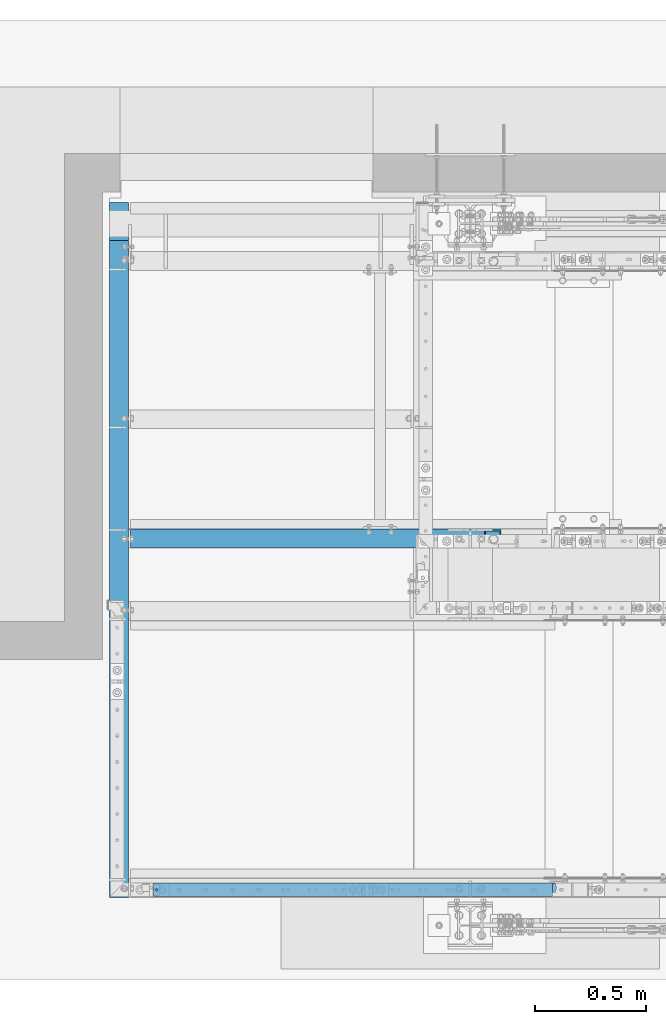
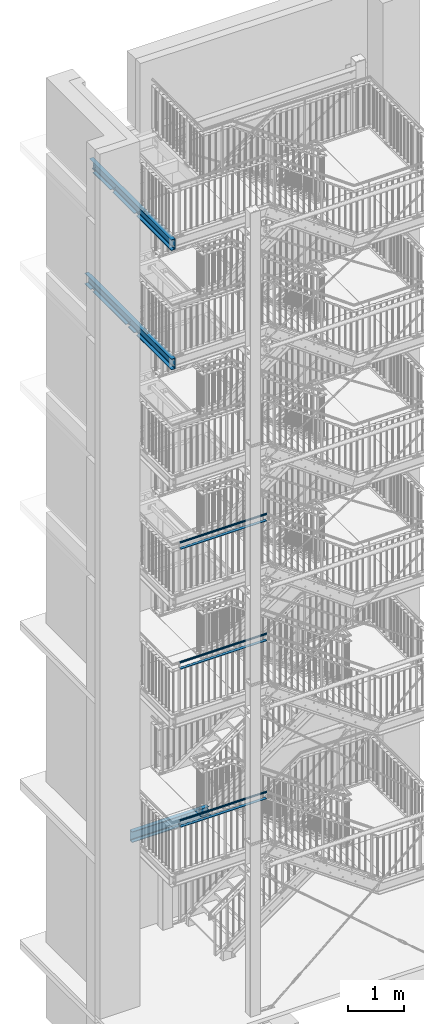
# One storey, part 113 of 825: 9 beams, 37 openings.
"""IFC2X3 building model written with IfcOpenShell, lengths in millimetres."""

import ifcopenshell
import ifcopenshell.guid

model = None  # the IFC model being written
_history = None  # IfcOwnerHistory: only IFC2X3 demands one
_inside = {}  # id of a spatial element -> (the spatial element, [elements in it])
_under = {}  # id of a project, library or spatial element -> (it, [spatial elements below it])
_declared = {}  # id of a project -> (the project, [libraries it declares])
_typed = {}  # id of a type object -> (the type object, [elements of that type])
_made_of = {}  # id of a material, layer set ... -> (it, [elements and type objects made of it])


def new_model(schema):
    """Start an empty IFC model of exactly this schema.

    Asked for "IFC4X3", IfcOpenShell would pick the latest addendum, in which some entities
    have other attributes; the version numbers below select the first issue.
    IFC2X3 requires an IfcOwnerHistory on every rooted entity: one is made here for all.
    """
    global model, _history
    if schema == "IFC4X3":
        model = ifcopenshell.file(schema_version=(4, 3, 0, 0))
    else:
        model = ifcopenshell.file(schema=schema)
    _inside.clear()
    _under.clear()
    _declared.clear()
    _typed.clear()
    _made_of.clear()
    _history = None
    if model.schema == "IFC2X3":
        org = make("IfcOrganization", Name="unknown")
        user = make(
            "IfcPersonAndOrganization",
            ThePerson=make("IfcPerson", FamilyName="unknown"),
            TheOrganization=org,
        )
        app = make(
            "IfcApplication",
            ApplicationDeveloper=org,
            Version="unknown",
            ApplicationFullName="unknown",
            ApplicationIdentifier="unknown",
        )
        _history = make(
            "IfcOwnerHistory",
            OwningUser=user,
            OwningApplication=app,
            ChangeAction="ADDED",
            CreationDate=0,
        )
    return model


def make(cls, **values):
    """One entity of the class cls with the attributes given. An attribute that is None is left unset."""
    return model.create_entity(
        cls, **{name: value for name, value in values.items() if value is not None}
    )


def entity(cls, *values):
    """Any entity or typed value of the class cls, its attributes in the order of the schema. None: left unset."""
    e = model.create_entity(cls)
    for i, value in enumerate(values):
        if value is not None:
            e[i] = value
    return e


def rooted(cls, **values):
    """An entity with a GlobalId (a new one), such as an element, a storey or a relation."""
    return make(cls, GlobalId=ifcopenshell.guid.new(), OwnerHistory=_history, **values)


def si_unit(unit_type, name, prefix=None):
    """IfcSIUnit, for example si_unit("LENGTHUNIT", "METRE", prefix="MILLI")."""
    return make("IfcSIUnit", UnitType=unit_type, Prefix=prefix, Name=name)


def converted_unit(unit_type, name, factor, base, dimensions=None, offset=None):
    """IfcConversionBasedUnit, such as the inch: factor (a typed value) times the base unit."""
    return make(
        "IfcConversionBasedUnit"
        if offset is None
        else "IfcConversionBasedUnitWithOffset",
        ConversionOffset=offset,
        Dimensions=None
        if dimensions is None
        else entity("IfcDimensionalExponents", *dimensions),
        UnitType=unit_type,
        Name=name,
        ConversionFactor=make(
            "IfcMeasureWithUnit", ValueComponent=factor, UnitComponent=base
        ),
    )


def assignment(units):
    """IfcUnitAssignment: the units of a project."""
    return None if units is None else make("IfcUnitAssignment", Units=units)


def point(xyz):
    """IfcCartesianPoint."""
    return None if xyz is None else make("IfcCartesianPoint", Coordinates=xyz)


def direction(xyz):
    """IfcDirection."""
    return None if xyz is None else make("IfcDirection", DirectionRatios=xyz)


def frame(location, z_axis=None, x_axis=None):
    """IfcAxis2Placement3D, a coordinate frame: its origin and axes. An axis left out is left unset."""
    return make(
        "IfcAxis2Placement3D",
        Location=point(location),
        Axis=direction(z_axis),
        RefDirection=direction(x_axis),
    )


def frame_2d(location, x_axis=None):
    """IfcAxis2Placement2D, a coordinate frame in the plane: its origin and x axis."""
    return make(
        "IfcAxis2Placement2D", Location=point(location), RefDirection=direction(x_axis)
    )


def origin():
    """The frame at (0, 0, 0) with its axes left unset."""
    return frame((0.0, 0.0, 0.0))


def origin_with_axes():
    """The frame at (0, 0, 0) with the z axis (0, 0, 1) and the x axis (1, 0, 0) written out."""
    return frame((0.0, 0.0, 0.0), z_axis=(0.0, 0.0, 1.0), x_axis=(1.0, 0.0, 0.0))


def origin_2d():
    """The frame at (0, 0) in the plane with its x axis left unset."""
    return frame_2d((0.0, 0.0))


def origin_2d_with_axis():
    """The frame at (0, 0) in the plane with the x axis (1, 0) written out."""
    return frame_2d((0.0, 0.0), x_axis=(1.0, 0.0))


def place(relative_to, where):
    """IfcLocalPlacement: puts the frame where relative to a parent placement (None: the world)."""
    return make(
        "IfcLocalPlacement", PlacementRelTo=relative_to, RelativePlacement=where
    )


def context(
    kind, dimensions, precision=None, world=None, true_north=None, identifier=None
):
    """IfcGeometricRepresentationContext, for example the 3D "Model" context."""
    return make(
        "IfcGeometricRepresentationContext",
        ContextIdentifier=identifier,
        ContextType=kind,
        CoordinateSpaceDimension=dimensions,
        Precision=precision,
        WorldCoordinateSystem=world,
        TrueNorth=true_north,
    )


def project(units=None, contexts=None):
    """IfcProject with its units and contexts."""
    return rooted(
        "IfcProject",
        Name="project",
        RepresentationContexts=contexts,
        UnitsInContext=assignment(units),
    )


def spatial(cls, under=None, at=None, **own):
    """A site, building, storey or space (cls), placed at a placement, below another one or the project."""
    s = rooted(cls, ObjectPlacement=at, **own)
    if under is not None:
        _under.setdefault(under.id(), (under, []))[1].append(s)
    return s


def circle_curve(where, radius):
    """IfcCircle in the frame where."""
    return make("IfcCircle", Position=where, Radius=radius)


def line_curve(start, along, magnitude):
    """IfcLine from a point along a vector."""
    return make(
        "IfcLine",
        Pnt=point(start),
        Dir=make("IfcVector", Orientation=direction(along), Magnitude=magnitude),
    )


def trimmed(basis, trim1, trim2, sense, master):
    """IfcTrimmedCurve: the piece of a basis curve between two trims."""
    return make(
        "IfcTrimmedCurve",
        BasisCurve=basis,
        Trim1=trim1,
        Trim2=trim2,
        SenseAgreement=sense,
        MasterRepresentation=master,
    )


def segment(curve, same_sense, transition):
    """IfcCompositeCurveSegment."""
    return make(
        "IfcCompositeCurveSegment",
        Transition=transition,
        SameSense=same_sense,
        ParentCurve=curve,
    )


def composite_curve(segments, self_intersect=None):
    """IfcCompositeCurve: segments joined end to end."""
    return make("IfcCompositeCurve", Segments=segments, SelfIntersect=self_intersect)


def profile(cls, at=None, kind="AREA", **sizes):
    """A parametric profile (cls). Its sizes go by their IFC names, for example OverallWidth=200.0."""
    return make(cls, ProfileType=kind, Position=at, **sizes)


def rectangle(**sizes):
    """IfcRectangleProfileDef."""
    return profile("IfcRectangleProfileDef", **sizes)


def circle(**sizes):
    """IfcCircleProfileDef."""
    return profile("IfcCircleProfileDef", **sizes)


def hollow_circle(**sizes):
    """IfcCircleHollowProfileDef."""
    return profile("IfcCircleHollowProfileDef", **sizes)


def u_section(**sizes):
    """IfcUShapeProfileDef."""
    return profile("IfcUShapeProfileDef", **sizes)


def outline(outer, holes=None, kind="AREA"):
    """IfcArbitraryClosedProfileDef: a profile drawn as a closed curve; with holes, ...WithVoids."""
    if holes is None:
        return make("IfcArbitraryClosedProfileDef", ProfileType=kind, OuterCurve=outer)
    return make(
        "IfcArbitraryProfileDefWithVoids",
        ProfileType=kind,
        OuterCurve=outer,
        InnerCurves=holes,
    )


def extrude(swept, where, along, depth):
    """IfcExtrudedAreaSolid: the profile swept, set in the frame where, extruded along a direction by depth."""
    return make(
        "IfcExtrudedAreaSolid",
        SweptArea=swept,
        Position=where,
        ExtrudedDirection=direction(along),
        Depth=depth,
    )


def clip(a, b, op="DIFFERENCE"):
    """IfcBooleanClippingResult: the solid a cut by the half space b."""
    return make(
        "IfcBooleanClippingResult", Operator=op, FirstOperand=a, SecondOperand=b
    )


def halfspace(plane, agree):
    """IfcHalfSpaceSolid: all space on one side of the plane z = 0 of the frame plane."""
    return make(
        "IfcHalfSpaceSolid",
        BaseSurface=make("IfcPlane", Position=plane),
        AgreementFlag=agree,
    )


def shape(context_of_items, identifier, shape_type, items):
    """IfcShapeRepresentation: the items that make up one representation, for example the "Body"."""
    return make(
        "IfcShapeRepresentation",
        ContextOfItems=context_of_items,
        RepresentationIdentifier=identifier,
        RepresentationType=shape_type,
        Items=items,
    )


def material(Name=None, Category=None):
    """IfcMaterial."""
    return make("IfcMaterial", Name=Name, Category=Category)


def made_of(thing, what):
    """Note that an element or type object is made of a material, layer set ...; save() writes the relation."""
    if what is not None:
        _made_of.setdefault(what.id(), (what, []))[1].append(thing)
    return thing


def element(
    cls,
    number,
    at=None,
    inside=None,
    cuts=None,
    type_object=None,
    material=None,
    context=None,
    identifier="Body",
    shape_type=None,
    held_by="IfcProductDefinitionShape",
    body=None,
    shapes=None,
    **own,
):
    """One element of the class cls, such as IfcWall. Its Tag is "e" and its number.

    at: its placement. inside: the storey or other place that contains it. cuts: it is an
    opening in that element (IfcRelVoidsElement). A single representation is given by context,
    identifier, shape_type and body (its items); several are given by shapes. held_by: the class
    of the entity that holds the representations. save() writes the other relations.
    """
    e = rooted(cls, Tag="e%d" % number, ObjectPlacement=at, **own)
    if body is not None:
        shapes = [shape(context, identifier, shape_type, body)]
    if shapes is not None:
        e.Representation = make(held_by, Representations=shapes)
    if inside is not None:
        _inside.setdefault(inside.id(), (inside, []))[1].append(e)
    if cuts is not None:
        rooted(
            "IfcRelVoidsElement", RelatingBuildingElement=cuts, RelatedOpeningElement=e
        )
    if type_object is not None:
        _typed.setdefault(type_object.id(), (type_object, []))[1].append(e)
    return made_of(e, material)


def aggregate(whole, parts):
    """IfcRelAggregates: a whole, such as a stair, and the parts it consists of."""
    return rooted("IfcRelAggregates", RelatingObject=whole, RelatedObjects=parts)


def save(model, path):
    """Write the relations noted so far, then the file.

    IfcRelAggregates (storeys below a building ...), IfcRelContainedInSpatialStructure (elements
    in a storey), IfcRelDefinesByType, IfcRelAssociatesMaterial and IfcRelDeclares: one each for
    every whole, place, type object, material and project.
    """
    for whole, parts in _under.values():
        aggregate(whole, parts)
    for where, things in _inside.values():
        rooted(
            "IfcRelContainedInSpatialStructure",
            RelatedElements=things,
            RelatingStructure=where,
        )
    for kind, things in _typed.values():
        rooted("IfcRelDefinesByType", RelatedObjects=things, RelatingType=kind)
    for what, things in _made_of.values():
        rooted("IfcRelAssociatesMaterial", RelatedObjects=things, RelatingMaterial=what)
    for by, libraries in _declared.values():
        rooted("IfcRelDeclares", RelatingContext=by, RelatedDefinitions=libraries)
    model.write(path)


model = new_model("IFC2X3")

# Units and contexts
model_context = context("Model", 3, precision=1e-09, world=origin_with_axes())
ifc_project = project(units=[si_unit("LENGTHUNIT", "METRE", prefix="MILLI"), si_unit("AREAUNIT", "SQUARE_METRE"), si_unit("VOLUMEUNIT", "CUBIC_METRE"), converted_unit("PLANEANGLEUNIT", "DEGREE", entity("IfcPlaneAngleMeasure", 0.01745329), si_unit("PLANEANGLEUNIT", "RADIAN"), dimensions=[0, 0, 0, 0, 0, 0, 0])], contexts=[model_context])

# Site, building, storey
site_placement = place(None, origin_with_axes())
site = spatial("IfcSite", under=ifc_project, at=site_placement, Name="Cnopf'sche Kinderklinik", CompositionType="ELEMENT")
building_placement = place(site_placement, origin_with_axes())
building = spatial("IfcBuilding", under=site, at=building_placement, Name="Struktur 1", CompositionType="ELEMENT")
storey_placement = place(building_placement, origin_with_axes())
storey = spatial("IfcBuildingStorey", under=building, at=storey_placement, Name="Default Storey", CompositionType="ELEMENT", Elevation=0.0)

# Beam, openings
ifc_material = material(Name="S235JR")
beam_1_placement = place(None, frame((3074.409632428, 6124.436971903, 3727.0), z_axis=(-1.0, 0.0, 0.0), x_axis=(0.0, -1.0, 0.0)))
beam_1 = element("IfcBeam", 1, at=beam_1_placement, inside=storey, material=ifc_material, Name="BottomLanding#1", ObjectType="BottomLanding#1", context=model_context, shape_type="Clipping", body=[
    clip(clip(extrude(u_section(Depth=240.0, FlangeWidth=85.0, WebThickness=9.5, FlangeThickness=13.0, FilletRadius=13.0, EdgeRadius=6.5, FlangeSlope=4.574, at=frame_2d((20.2, 0.0))), origin(), (0.0, 0.0, -1.0), 2104.790555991), halfspace(frame((6124.436971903, -3727.0, -257.304770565), z_axis=(0.0, 0.0, -1.0), x_axis=(-1.0, 0.0, 0.0)), True)), halfspace(frame((6124.436971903, -1962.281935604, -2504.118187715), z_axis=(0.0, -0.301609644, 0.953431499), x_axis=(1.0, 0.0, 0.0)), True)),
])
opening_1_placement = place(beam_1_placement, frame((-12.3, 20.0, -1420.302770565), z_axis=(1.0, 0.0, 0.0), x_axis=(0.0, 1.0, 0.0)))
element("IfcOpeningElement", 2, at=opening_1_placement, cuts=beam_1, ObjectType="Opening", context=model_context, shape_type="SweptSolid", body=[
    extrude(circle(Radius=7.001, at=frame_2d((0.0, -7.001), x_axis=(1.0, 0.0))), origin(), (0.0, 0.0, -1.0), 10.5),
])
opening_2_placement = place(beam_1_placement, frame((-12.3, 20.0, -1320.302770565), z_axis=(1.0, 0.0, 0.0), x_axis=(0.0, 1.0, 0.0)))
element("IfcOpeningElement", 3, at=opening_2_placement, cuts=beam_1, ObjectType="Opening", context=model_context, shape_type="SweptSolid", body=[
    extrude(circle(Radius=7.001, at=frame_2d((0.0, -7.001), x_axis=(1.0, 0.0))), origin(), (0.0, 0.0, -1.0), 10.5),
])
opening_3_placement = place(beam_1_placement, frame((32.7, 120.5, -1670.302770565), z_axis=(0.0, 1.0, 0.0), x_axis=(-1.0, 0.0, 0.0)))
element("IfcOpeningElement", 4, at=opening_3_placement, cuts=beam_1, ObjectType="Opening", context=model_context, shape_type="SweptSolid", body=[
    extrude(circle(Radius=7.001, at=frame_2d((0.0, -7.001), x_axis=(1.0, 0.0))), origin(), (0.0, 0.0, -1.0), 14.0),
])
opening_4_placement = place(beam_1_placement, frame((32.7, 120.5, -1570.302770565), z_axis=(0.0, 1.0, 0.0), x_axis=(-1.0, 0.0, 0.0)))
element("IfcOpeningElement", 5, at=opening_4_placement, cuts=beam_1, ObjectType="Opening", context=model_context, shape_type="SweptSolid", body=[
    extrude(circle(Radius=7.001, at=frame_2d((0.0, -7.001), x_axis=(1.0, 0.0))), origin(), (0.0, 0.0, -1.0), 14.0),
])
opening_5_placement = place(beam_1_placement, frame((22.7, -120.5, -1832.303770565), z_axis=(0.0, 1.0, 0.0), x_axis=(-1.0, 0.0, 0.0)))
element("IfcOpeningElement", 6, at=opening_5_placement, cuts=beam_1, ObjectType="Opening", context=model_context, shape_type="SweptSolid", body=[
    extrude(circle(Radius=7.001, at=origin_2d_with_axis()), origin(), (0.0, 0.0, 1.0), 14.0),
])
opening_6_placement = place(beam_1_placement, frame((22.7, -120.5, -1732.303770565), z_axis=(0.0, 1.0, 0.0), x_axis=(-1.0, 0.0, 0.0)))
element("IfcOpeningElement", 7, at=opening_6_placement, cuts=beam_1, ObjectType="Opening", context=model_context, shape_type="SweptSolid", body=[
    extrude(circle(Radius=7.001, at=origin_2d_with_axis()), origin(), (0.0, 0.0, 1.0), 14.0),
])

# Beam, opening
beam_2_placement = place(None, frame((5226.615079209, 4526.736971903, 10965.8), z_axis=(1.0, 0.0, 0.0), x_axis=(0.0, 0.0, -1.0)))
beam_2 = element("IfcBeam", 8, at=beam_2_placement, inside=storey, material=ifc_material, Name="Railing_Kneerail_Landing#1020", ObjectType="Railing_Kneerail_Landing#1020", context=model_context, shape_type="SweptSolid", body=[
    extrude(rectangle(XDim=10.0, YDim=60.0, at=origin_2d()), origin(), (0.0, 0.0, -1.0), 1791.323533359),
])
opening_7_placement = place(beam_2_placement, frame((5.5, 0.0, -1779.32353336), z_axis=(-1.0, 0.0, 0.0), x_axis=(0.0, 0.0, 1.0)))
element("IfcOpeningElement", 9, at=opening_7_placement, cuts=beam_2, ObjectType="Opening", context=model_context, shape_type="SweptSolid", body=[
    extrude(circle(Radius=5.001, at=origin_2d_with_axis()), origin(), (0.0, 0.0, 1.0), 11.0),
])

# Beam
beam_3_placement = place(None, frame((5268.226025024, 4535.536971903, 11092.0), z_axis=(1.0, 0.0, 0.0), x_axis=(0.0, 0.0, -1.0)))
element("IfcBeam", 10, at=beam_3_placement, inside=storey, material=ifc_material, Name="Railing_Handrail_Landing#8", ObjectType="Railing_Handrail_Landing#8", context=model_context, shape_type="Clipping", body=[
    clip(extrude(hollow_circle(Radius=21.2, WallThickness=3.2, at=origin_2d()), origin(), (0.0, 0.0, -1.0), 1832.934479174), halfspace(frame((11574.417480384, -4535.536971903, -3777.738523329), z_axis=(-0.307936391, 0.0, -0.951406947), x_axis=(0.0, -1.0, 0.0)), True)),
])

# Beam, opening
beam_4_placement = place(None, frame((5226.843558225, 4526.736971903, 8333.8), z_axis=(1.0, 0.0, 0.0), x_axis=(0.0, 0.0, -1.0)))
beam_4 = element("IfcBeam", 11, at=beam_4_placement, inside=storey, material=ifc_material, Name="Railing_Kneerail_Landing#1018", ObjectType="Railing_Kneerail_Landing#1018", context=model_context, shape_type="SweptSolid", body=[
    extrude(rectangle(XDim=10.0, YDim=60.0, at=origin_2d()), origin(), (0.0, 0.0, -1.0), 1791.552012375),
])
opening_8_placement = place(beam_4_placement, frame((5.5, 0.0, -1779.552012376), z_axis=(-1.0, 0.0, 0.0), x_axis=(0.0, 0.0, 1.0)))
element("IfcOpeningElement", 12, at=opening_8_placement, cuts=beam_4, ObjectType="Opening", context=model_context, shape_type="SweptSolid", body=[
    extrude(circle(Radius=5.001, at=origin_2d_with_axis()), origin(), (0.0, 0.0, 1.0), 11.0),
])

# Beam
beam_5_placement = place(None, frame((5268.159109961, 4535.536971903, 8460.0), z_axis=(1.0, 0.0, 0.0), x_axis=(0.0, 0.0, -1.0)))
element("IfcBeam", 13, at=beam_5_placement, inside=storey, material=ifc_material, Name="Railing_Handrail_Landing#8", ObjectType="Railing_Handrail_Landing#8", context=model_context, shape_type="Clipping", body=[
    clip(extrude(hollow_circle(Radius=21.2, WallThickness=3.2, at=origin_2d()), origin(), (0.0, 0.0, -1.0), 1832.867564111), halfspace(frame((9196.298185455, -4535.536971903, -2940.614561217), z_axis=(-0.301609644, 0.0, -0.953431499), x_axis=(0.0, -1.0, 0.0)), True)),
])

# Beam, opening
beam_6_placement = place(None, frame((5226.741597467, 4526.736971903, 4860.8), z_axis=(1.0, 0.0, 0.0), x_axis=(0.0, 0.0, -1.0)))
beam_6 = element("IfcBeam", 14, at=beam_6_placement, inside=storey, material=ifc_material, Name="Railing_Kneerail_Landing#1018", ObjectType="Railing_Kneerail_Landing#1018", context=model_context, shape_type="SweptSolid", body=[
    extrude(rectangle(XDim=10.0, YDim=60.0, at=origin_2d()), origin(), (0.0, 0.0, -1.0), 1791.453076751),
])
opening_9_placement = place(beam_6_placement, frame((5.5, 0.0, -1779.453076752), z_axis=(-1.0, 0.0, 0.0), x_axis=(0.0, 0.0, 1.0)))
element("IfcOpeningElement", 15, at=opening_9_placement, cuts=beam_6, ObjectType="Opening", context=model_context, shape_type="SweptSolid", body=[
    extrude(circle(Radius=5.001, at=origin_2d_with_axis()), origin(), (0.0, 0.0, 1.0), 11.0),
])

# Beam
beam_7_placement = place(None, frame((5268.188799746, 4535.536971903, 4987.0), z_axis=(1.0, 0.0, 0.0), x_axis=(0.0, 0.0, -1.0)))
element("IfcBeam", 16, at=beam_7_placement, inside=storey, material=ifc_material, Name="Railing_Handrail_Landing#7", ObjectType="Railing_Handrail_Landing#7", context=model_context, shape_type="Clipping", body=[
    clip(extrude(hollow_circle(Radius=21.2, WallThickness=3.2, at=origin_2d()), origin(), (0.0, 0.0, -1.0), 1832.90027903), halfspace(frame((6043.370805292, -4535.536971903, -1962.993061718), z_axis=(-0.304437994, 0.0, -0.952532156), x_axis=(0.0, -1.0, 0.0)), True)),
])

# Beam, openings
beam_8_placement = place(None, frame((3299.413402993, 4491.736971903, 15094.0), z_axis=(0.0, 1.0, 0.0), x_axis=(-1.0, 0.0, 0.0)))
beam_8 = element("IfcBeam", 17, at=beam_8_placement, inside=storey, material=ifc_material, Name="Girder", ObjectType="Girder", context=model_context, shape_type="SweptSolid", body=[
    extrude(u_section(Depth=240.0, FlangeWidth=85.0, WebThickness=9.5, FlangeThickness=13.0, FilletRadius=13.0, EdgeRadius=6.5, FlangeSlope=4.574, at=frame_2d((20.2, 0.0))), origin(), (0.0, 0.0, 1.0), 3120.0),
])
opening_10_placement = place(beam_8_placement, frame((81.62874817, -30.0, 1269.999), z_axis=(0.0, 1.0, 0.0), x_axis=(-0.707106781, 0.0, -0.707106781)))
element("IfcOpeningElement", 18, at=opening_10_placement, cuts=beam_8, ObjectType="Opening", context=model_context, shape_type="SweptSolid", body=[
    extrude(outline(composite_curve([segment(trimmed(circle_curve(frame_2d((7.071067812, 7.071067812), x_axis=(1.0, 0.0)), 10.0), [point((0.0, 0.0))], [point((14.142135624, 0.0))], True, "CARTESIAN"), True, "CONTINUOUS"), segment(trimmed(line_curve((14.142135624, 0.0), (0.707106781, 0.707106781), 48.92974817), [point((14.142135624, 0.0))], [point((48.740692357, 34.598556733))], True, "CARTESIAN"), True, "CONTINUOUS"), segment(trimmed(circle_curve(frame_2d((41.669624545, 41.669624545), x_axis=(1.0, 0.0)), 10.0), [point((48.740692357, 34.598556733))], [point((48.740692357, 48.740692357))], True, "CARTESIAN"), True, "CONTINUOUS"), segment(trimmed(line_curve((48.740692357, 48.740692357), (-0.707106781, 0.707106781), 60.002), [point((48.740692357, 48.740692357))], [point((6.312871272, 91.168513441))], True, "CARTESIAN"), True, "CONTINUOUS"), segment(trimmed(circle_curve(frame_2d((-0.75819654, 84.097445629), x_axis=(1.0, 0.0)), 10.0), [point((6.312871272, 91.168513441))], [point((-7.829264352, 91.168513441))], True, "CARTESIAN"), True, "CONTINUOUS"), segment(trimmed(line_curve((-7.829264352, 91.168513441), (-0.707106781, -0.707106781), 48.92974817), [point((-7.829264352, 91.168513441))], [point((-42.427821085, 56.569956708))], True, "CARTESIAN"), True, "CONTINUOUS"), segment(trimmed(circle_curve(frame_2d((-35.356753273, 49.498888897), x_axis=(1.0, 0.0)), 10.0), [point((-42.427821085, 56.569956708))], [point((-42.427821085, 42.427821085))], True, "CARTESIAN"), True, "CONTINUOUS"), segment(trimmed(line_curve((-42.427821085, 42.427821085), (0.707106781, -0.707106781), 60.002), [point((-42.427821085, 42.427821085))], [point((0.0, 0.0))], True, "CARTESIAN"), True, "CONTINUOUS")], self_intersect=False)), origin(), (0.0, 0.0, -1.0), 190.1),
])
opening_11_placement = place(beam_8_placement, frame((79.429256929, -30.0, 2839.999), z_axis=(0.0, 1.0, 0.0), x_axis=(-0.707106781, 0.0, -0.707106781)))
element("IfcOpeningElement", 19, at=opening_11_placement, cuts=beam_8, ObjectType="Opening", context=model_context, shape_type="SweptSolid", body=[
    extrude(outline(composite_curve([segment(trimmed(circle_curve(frame_2d((7.071067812, 7.071067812), x_axis=(1.0, 0.0)), 10.0), [point((0.0, 0.0))], [point((14.142135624, 0.0))], True, "CARTESIAN"), True, "CONTINUOUS"), segment(trimmed(line_curve((14.142135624, 0.0), (0.707106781, 0.707106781), 46.730256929), [point((14.142135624, 0.0))], [point((47.185417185, 33.043281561))], True, "CARTESIAN"), True, "CONTINUOUS"), segment(trimmed(circle_curve(frame_2d((40.114349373, 40.114349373), x_axis=(1.0, 0.0)), 10.0), [point((47.185417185, 33.043281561))], [point((47.185417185, 47.185417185))], True, "CARTESIAN"), True, "CONTINUOUS"), segment(trimmed(line_curve((47.185417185, 47.185417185), (-0.707106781, 0.707106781), 60.002), [point((47.185417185, 47.185417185))], [point((4.7575961, 89.61323827))], True, "CARTESIAN"), True, "CONTINUOUS"), segment(trimmed(circle_curve(frame_2d((-2.313471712, 82.542170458), x_axis=(1.0, 0.0)), 10.0), [point((4.7575961, 89.61323827))], [point((-9.384539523, 89.61323827))], True, "CARTESIAN"), True, "CONTINUOUS"), segment(trimmed(line_curve((-9.384539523, 89.61323827), (-0.707106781, -0.707106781), 46.730256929), [point((-9.384539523, 89.61323827))], [point((-42.427821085, 56.569956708))], True, "CARTESIAN"), True, "CONTINUOUS"), segment(trimmed(circle_curve(frame_2d((-35.356753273, 49.498888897), x_axis=(1.0, 0.0)), 10.0), [point((-42.427821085, 56.569956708))], [point((-42.427821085, 42.427821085))], True, "CARTESIAN"), True, "CONTINUOUS"), segment(trimmed(line_curve((-42.427821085, 42.427821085), (0.707106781, -0.707106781), 60.002), [point((-42.427821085, 42.427821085))], [point((0.0, 0.0))], True, "CARTESIAN"), True, "CONTINUOUS")], self_intersect=False)), origin(), (0.0, 0.0, -1.0), 190.1),
])
opening_12_placement = place(beam_8_placement, frame((80.021054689, -30.0, 1569.999), z_axis=(0.0, 1.0, 0.0), x_axis=(-0.707106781, 0.0, -0.707106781)))
element("IfcOpeningElement", 20, at=opening_12_placement, cuts=beam_8, ObjectType="Opening", context=model_context, shape_type="SweptSolid", body=[
    extrude(outline(composite_curve([segment(trimmed(circle_curve(frame_2d((7.071067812, 7.071067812), x_axis=(1.0, 0.0)), 10.0), [point((0.0, 0.0))], [point((14.142135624, 0.0))], True, "CARTESIAN"), True, "CONTINUOUS"), segment(trimmed(line_curve((14.142135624, 0.0), (0.707106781, 0.707106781), 47.322054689), [point((14.142135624, 0.0))], [point((47.603881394, 33.46174577))], True, "CARTESIAN"), True, "CONTINUOUS"), segment(trimmed(circle_curve(frame_2d((40.532813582, 40.532813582), x_axis=(1.0, 0.0)), 10.0), [point((47.603881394, 33.46174577))], [point((47.603881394, 47.603881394))], True, "CARTESIAN"), True, "CONTINUOUS"), segment(trimmed(line_curve((47.603881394, 47.603881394), (-0.707106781, 0.707106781), 60.002), [point((47.603881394, 47.603881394))], [point((5.176060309, 90.031702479))], True, "CARTESIAN"), True, "CONTINUOUS"), segment(trimmed(circle_curve(frame_2d((-1.895007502, 82.960634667), x_axis=(1.0, 0.0)), 10.0), [point((5.176060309, 90.031702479))], [point((-8.966075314, 90.031702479))], True, "CARTESIAN"), True, "CONTINUOUS"), segment(trimmed(line_curve((-8.966075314, 90.031702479), (-0.707106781, -0.707106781), 47.322054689), [point((-8.966075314, 90.031702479))], [point((-42.427821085, 56.569956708))], True, "CARTESIAN"), True, "CONTINUOUS"), segment(trimmed(circle_curve(frame_2d((-35.356753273, 49.498888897), x_axis=(1.0, 0.0)), 10.0), [point((-42.427821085, 56.569956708))], [point((-42.427821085, 42.427821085))], True, "CARTESIAN"), True, "CONTINUOUS"), segment(trimmed(line_curve((-42.427821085, 42.427821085), (0.707106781, -0.707106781), 60.002), [point((-42.427821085, 42.427821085))], [point((0.0, 0.0))], True, "CARTESIAN"), True, "CONTINUOUS")], self_intersect=False)), origin(), (0.0, 0.0, -1.0), 190.1),
])
opening_13_placement = place(beam_8_placement, frame((27.7, 120.5, 1013.001), z_axis=(0.0, 1.0, 0.0), x_axis=(-1.0, 0.0, 0.0)))
element("IfcOpeningElement", 21, at=opening_13_placement, cuts=beam_8, ObjectType="Opening", context=model_context, shape_type="SweptSolid", body=[
    extrude(circle(Radius=7.001, at=frame_2d((0.0, 7.001), x_axis=(1.0, 0.0))), origin(), (0.0, 0.0, -1.0), 14.0),
])
opening_14_placement = place(beam_8_placement, frame((27.7, 120.5, 913.001), z_axis=(0.0, 1.0, 0.0), x_axis=(-1.0, 0.0, 0.0)))
element("IfcOpeningElement", 22, at=opening_14_placement, cuts=beam_8, ObjectType="Opening", context=model_context, shape_type="SweptSolid", body=[
    extrude(circle(Radius=7.001, at=frame_2d((0.0, 7.001), x_axis=(1.0, 0.0))), origin(), (0.0, 0.0, -1.0), 14.0),
])
opening_15_placement = place(beam_8_placement, frame((-12.3, 50.999, 1290.0), z_axis=(1.0, 0.0, 0.0), x_axis=(0.0, 1.0, 0.0)))
element("IfcOpeningElement", 23, at=opening_15_placement, cuts=beam_8, ObjectType="Opening", context=model_context, shape_type="SweptSolid", body=[
    extrude(circle(Radius=9.001, at=frame_2d((9.001, 0.0), x_axis=(1.0, 0.0))), origin(), (0.0, 0.0, -1.0), 10.5),
])
opening_16_placement = place(beam_8_placement, frame((-12.3, -69.001, 1290.0), z_axis=(1.0, 0.0, 0.0), x_axis=(0.0, 1.0, 0.0)))
element("IfcOpeningElement", 24, at=opening_16_placement, cuts=beam_8, ObjectType="Opening", context=model_context, shape_type="SweptSolid", body=[
    extrude(circle(Radius=9.001, at=frame_2d((9.001, 0.0), x_axis=(1.0, 0.0))), origin(), (0.0, 0.0, -1.0), 10.5),
])
opening_17_placement = place(beam_8_placement, frame((-12.3, 0.0, 40.0), z_axis=(-1.0, 0.0, 0.0), x_axis=(0.0, 1.0, 0.0)))
element("IfcOpeningElement", 25, at=opening_17_placement, cuts=beam_8, ObjectType="Opening", context=model_context, shape_type="SweptSolid", body=[
    extrude(circle(Radius=9.001, at=frame_2d((60.0, 0.0), x_axis=(1.0, 0.0))), origin(), (0.0, 0.0, 1.0), 10.5),
])
opening_18_placement = place(beam_8_placement, frame((-12.3, 0.0, 40.0), z_axis=(-1.0, 0.0, 0.0), x_axis=(0.0, 1.0, 0.0)))
element("IfcOpeningElement", 26, at=opening_18_placement, cuts=beam_8, ObjectType="Opening", context=model_context, shape_type="SweptSolid", body=[
    extrude(circle(Radius=9.001, at=frame_2d((-60.0, 0.0), x_axis=(1.0, 0.0))), origin(), (0.0, 0.0, 1.0), 10.5),
])
opening_19_placement = place(beam_8_placement, frame((-12.3, 0.0, 1610.0), z_axis=(-1.0, 0.0, 0.0), x_axis=(0.0, 1.0, 0.0)))
element("IfcOpeningElement", 27, at=opening_19_placement, cuts=beam_8, ObjectType="Opening", context=model_context, shape_type="SweptSolid", body=[
    extrude(circle(Radius=9.001, at=frame_2d((60.0, 0.0), x_axis=(1.0, 0.0))), origin(), (0.0, 0.0, 1.0), 10.5),
])
opening_20_placement = place(beam_8_placement, frame((-12.3, 0.0, 1610.0), z_axis=(-1.0, 0.0, 0.0), x_axis=(0.0, 1.0, 0.0)))
element("IfcOpeningElement", 28, at=opening_20_placement, cuts=beam_8, ObjectType="Opening", context=model_context, shape_type="SweptSolid", body=[
    extrude(circle(Radius=9.001, at=frame_2d((-60.0, 0.0), x_axis=(1.0, 0.0))), origin(), (0.0, 0.0, 1.0), 10.5),
])
opening_21_placement = place(beam_8_placement, frame((-12.3, 50.999, 2860.0), z_axis=(1.0, 0.0, 0.0), x_axis=(0.0, 1.0, 0.0)))
element("IfcOpeningElement", 29, at=opening_21_placement, cuts=beam_8, ObjectType="Opening", context=model_context, shape_type="SweptSolid", body=[
    extrude(circle(Radius=9.001, at=frame_2d((9.001, 0.0), x_axis=(1.0, 0.0))), origin(), (0.0, 0.0, -1.0), 10.5),
])
opening_22_placement = place(beam_8_placement, frame((-12.3, -69.001, 2860.0), z_axis=(1.0, 0.0, 0.0), x_axis=(0.0, 1.0, 0.0)))
element("IfcOpeningElement", 30, at=opening_22_placement, cuts=beam_8, ObjectType="Opening", context=model_context, shape_type="SweptSolid", body=[
    extrude(circle(Radius=9.001, at=frame_2d((9.001, 0.0), x_axis=(1.0, 0.0))), origin(), (0.0, 0.0, -1.0), 10.5),
])

beam_9_placement = place(None, frame((3299.413402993, 4491.736971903, 17713.999999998), z_axis=(0.0, 1.0, 0.0), x_axis=(-1.0, 0.0, 0.0)))
beam_9 = element("IfcBeam", 31, at=beam_9_placement, inside=storey, material=ifc_material, Name="Girder", ObjectType="Girder", context=model_context, shape_type="SweptSolid", body=[
    extrude(u_section(Depth=240.0, FlangeWidth=85.0, WebThickness=9.5, FlangeThickness=13.0, FilletRadius=13.0, EdgeRadius=6.5, FlangeSlope=4.574, at=frame_2d((20.2, 0.0))), origin(), (0.0, 0.0, 1.0), 2950.0),
])
opening_23_placement = place(beam_9_placement, frame((81.62874817, -30.0, 1269.999), z_axis=(0.0, 1.0, 0.0), x_axis=(-0.707106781, 0.0, -0.707106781)))
element("IfcOpeningElement", 32, at=opening_23_placement, cuts=beam_9, ObjectType="Opening", context=model_context, shape_type="SweptSolid", body=[
    extrude(outline(composite_curve([segment(trimmed(circle_curve(frame_2d((7.071067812, 7.071067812), x_axis=(1.0, 0.0)), 10.0), [point((0.0, 0.0))], [point((14.142135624, 0.0))], True, "CARTESIAN"), True, "CONTINUOUS"), segment(trimmed(line_curve((14.142135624, 0.0), (0.707106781, 0.707106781), 48.92974817), [point((14.142135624, 0.0))], [point((48.740692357, 34.598556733))], True, "CARTESIAN"), True, "CONTINUOUS"), segment(trimmed(circle_curve(frame_2d((41.669624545, 41.669624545), x_axis=(1.0, 0.0)), 10.0), [point((48.740692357, 34.598556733))], [point((48.740692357, 48.740692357))], True, "CARTESIAN"), True, "CONTINUOUS"), segment(trimmed(line_curve((48.740692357, 48.740692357), (-0.707106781, 0.707106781), 60.002), [point((48.740692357, 48.740692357))], [point((6.312871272, 91.168513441))], True, "CARTESIAN"), True, "CONTINUOUS"), segment(trimmed(circle_curve(frame_2d((-0.75819654, 84.097445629), x_axis=(1.0, 0.0)), 10.0), [point((6.312871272, 91.168513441))], [point((-7.829264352, 91.168513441))], True, "CARTESIAN"), True, "CONTINUOUS"), segment(trimmed(line_curve((-7.829264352, 91.168513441), (-0.707106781, -0.707106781), 48.92974817), [point((-7.829264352, 91.168513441))], [point((-42.427821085, 56.569956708))], True, "CARTESIAN"), True, "CONTINUOUS"), segment(trimmed(circle_curve(frame_2d((-35.356753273, 49.498888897), x_axis=(1.0, 0.0)), 10.0), [point((-42.427821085, 56.569956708))], [point((-42.427821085, 42.427821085))], True, "CARTESIAN"), True, "CONTINUOUS"), segment(trimmed(line_curve((-42.427821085, 42.427821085), (0.707106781, -0.707106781), 60.002), [point((-42.427821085, 42.427821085))], [point((0.0, 0.0))], True, "CARTESIAN"), True, "CONTINUOUS")], self_intersect=False)), origin(), (0.0, 0.0, -1.0), 190.1),
])
opening_24_placement = place(beam_9_placement, frame((81.62874817, -100.0, 2839.999), z_axis=(0.0, 1.0, 0.0), x_axis=(-0.707106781, 0.0, -0.707106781)))
element("IfcOpeningElement", 33, at=opening_24_placement, cuts=beam_9, ObjectType="Opening", context=model_context, shape_type="SweptSolid", body=[
    extrude(outline(composite_curve([segment(trimmed(circle_curve(frame_2d((7.071067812, 7.071067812), x_axis=(1.0, 0.0)), 10.0), [point((0.0, 0.0))], [point((14.142135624, 0.0))], True, "CARTESIAN"), True, "CONTINUOUS"), segment(trimmed(line_curve((14.142135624, 0.0), (0.707106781, 0.707106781), 48.92974817), [point((14.142135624, 0.0))], [point((48.740692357, 34.598556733))], True, "CARTESIAN"), True, "CONTINUOUS"), segment(trimmed(circle_curve(frame_2d((41.669624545, 41.669624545), x_axis=(1.0, 0.0)), 10.0), [point((48.740692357, 34.598556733))], [point((48.740692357, 48.740692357))], True, "CARTESIAN"), True, "CONTINUOUS"), segment(trimmed(line_curve((48.740692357, 48.740692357), (-0.707106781, 0.707106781), 150.002), [point((48.740692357, 48.740692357))], [point((-57.326739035, 154.808123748))], True, "CARTESIAN"), True, "CONTINUOUS"), segment(trimmed(circle_curve(frame_2d((-64.397806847, 147.737055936), x_axis=(1.0, 0.0)), 10.0), [point((-57.326739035, 154.808123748))], [point((-71.468874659, 154.808123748))], True, "CARTESIAN"), True, "CONTINUOUS"), segment(trimmed(line_curve((-71.468874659, 154.808123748), (-0.707106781, -0.707106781), 48.92974817), [point((-71.468874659, 154.808123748))], [point((-106.067431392, 120.209567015))], True, "CARTESIAN"), True, "CONTINUOUS"), segment(trimmed(circle_curve(frame_2d((-98.99636358, 113.138499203), x_axis=(1.0, 0.0)), 10.0), [point((-106.067431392, 120.209567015))], [point((-106.067431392, 106.067431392))], True, "CARTESIAN"), True, "CONTINUOUS"), segment(trimmed(line_curve((-106.067431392, 106.067431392), (0.707106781, -0.707106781), 150.002), [point((-106.067431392, 106.067431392))], [point((0.0, 0.0))], True, "CARTESIAN"), True, "CONTINUOUS")], self_intersect=False)), origin(), (0.0, 0.0, -1.0), 20.1),
])
opening_25_placement = place(beam_9_placement, frame((81.62874817, -43.0, 2129.999), z_axis=(0.0, 1.0, 0.0), x_axis=(-0.707106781, 0.0, -0.707106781)))
element("IfcOpeningElement", 34, at=opening_25_placement, cuts=beam_9, ObjectType="Opening", context=model_context, shape_type="SweptSolid", body=[
    extrude(outline(composite_curve([segment(trimmed(circle_curve(frame_2d((7.071067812, 7.071067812), x_axis=(1.0, 0.0)), 10.0), [point((0.0, 0.0))], [point((14.142135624, 0.0))], True, "CARTESIAN"), True, "CONTINUOUS"), segment(trimmed(line_curve((14.142135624, 0.0), (0.707106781, 0.707106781), 48.92974817), [point((14.142135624, 0.0))], [point((48.740692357, 34.598556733))], True, "CARTESIAN"), True, "CONTINUOUS"), segment(trimmed(circle_curve(frame_2d((41.669624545, 41.669624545), x_axis=(1.0, 0.0)), 10.0), [point((48.740692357, 34.598556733))], [point((48.740692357, 48.740692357))], True, "CARTESIAN"), True, "CONTINUOUS"), segment(trimmed(line_curve((48.740692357, 48.740692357), (-0.707106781, 0.707106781), 60.002), [point((48.740692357, 48.740692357))], [point((6.312871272, 91.168513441))], True, "CARTESIAN"), True, "CONTINUOUS"), segment(trimmed(circle_curve(frame_2d((-0.75819654, 84.097445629), x_axis=(1.0, 0.0)), 10.0), [point((6.312871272, 91.168513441))], [point((-7.829264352, 91.168513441))], True, "CARTESIAN"), True, "CONTINUOUS"), segment(trimmed(line_curve((-7.829264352, 91.168513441), (-0.707106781, -0.707106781), 48.92974817), [point((-7.829264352, 91.168513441))], [point((-42.427821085, 56.569956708))], True, "CARTESIAN"), True, "CONTINUOUS"), segment(trimmed(circle_curve(frame_2d((-35.356753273, 49.498888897), x_axis=(1.0, 0.0)), 10.0), [point((-42.427821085, 56.569956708))], [point((-42.427821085, 42.427821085))], True, "CARTESIAN"), True, "CONTINUOUS"), segment(trimmed(line_curve((-42.427821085, 42.427821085), (0.707106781, -0.707106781), 60.002), [point((-42.427821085, 42.427821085))], [point((0.0, 0.0))], True, "CARTESIAN"), True, "CONTINUOUS")], self_intersect=False)), origin(), (0.0, 0.0, -1.0), 177.1),
])
opening_26_placement = place(beam_9_placement, frame((-12.3, 50.000000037, 2878.901), z_axis=(1.0, 0.0, 0.0), x_axis=(0.0, 1.0, 0.0)))
element("IfcOpeningElement", 35, at=opening_26_placement, cuts=beam_9, ObjectType="Opening", context=model_context, shape_type="SweptSolid", body=[
    extrude(circle(Radius=7.001, at=frame_2d((0.0, -7.001), x_axis=(1.0, 0.0))), origin(), (0.0, 0.0, -1.0), 10.5),
])
opening_27_placement = place(beam_9_placement, frame((-12.3, 50.000000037, 2928.901), z_axis=(1.0, 0.0, 0.0), x_axis=(0.0, 1.0, 0.0)))
element("IfcOpeningElement", 36, at=opening_27_placement, cuts=beam_9, ObjectType="Opening", context=model_context, shape_type="SweptSolid", body=[
    extrude(circle(Radius=7.001, at=frame_2d((0.0, -7.001), x_axis=(1.0, 0.0))), origin(), (0.0, 0.0, -1.0), 10.5),
])
opening_28_placement = place(beam_9_placement, frame((-12.3, -49.999999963, 2878.901), z_axis=(1.0, 0.0, 0.0), x_axis=(0.0, 1.0, 0.0)))
element("IfcOpeningElement", 37, at=opening_28_placement, cuts=beam_9, ObjectType="Opening", context=model_context, shape_type="SweptSolid", body=[
    extrude(circle(Radius=7.001, at=frame_2d((0.0, -7.001), x_axis=(1.0, 0.0))), origin(), (0.0, 0.0, -1.0), 10.5),
])
opening_29_placement = place(beam_9_placement, frame((-12.3, -49.999999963, 2928.901), z_axis=(1.0, 0.0, 0.0), x_axis=(0.0, 1.0, 0.0)))
element("IfcOpeningElement", 38, at=opening_29_placement, cuts=beam_9, ObjectType="Opening", context=model_context, shape_type="SweptSolid", body=[
    extrude(circle(Radius=7.001, at=frame_2d((0.0, -7.001), x_axis=(1.0, 0.0))), origin(), (0.0, 0.0, -1.0), 10.5),
])
opening_30_placement = place(beam_9_placement, frame((27.7, 120.5, 1013.001), z_axis=(0.0, 1.0, 0.0), x_axis=(-1.0, 0.0, 0.0)))
element("IfcOpeningElement", 39, at=opening_30_placement, cuts=beam_9, ObjectType="Opening", context=model_context, shape_type="SweptSolid", body=[
    extrude(circle(Radius=7.001, at=frame_2d((0.0, 7.001), x_axis=(1.0, 0.0))), origin(), (0.0, 0.0, -1.0), 14.0),
])
opening_31_placement = place(beam_9_placement, frame((27.7, 120.5, 913.001), z_axis=(0.0, 1.0, 0.0), x_axis=(-1.0, 0.0, 0.0)))
element("IfcOpeningElement", 40, at=opening_31_placement, cuts=beam_9, ObjectType="Opening", context=model_context, shape_type="SweptSolid", body=[
    extrude(circle(Radius=7.001, at=frame_2d((0.0, 7.001), x_axis=(1.0, 0.0))), origin(), (0.0, 0.0, -1.0), 14.0),
])
opening_32_placement = place(beam_9_placement, frame((-12.3, 50.998999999, 2150.0), z_axis=(1.0, 0.0, 0.0), x_axis=(0.0, 1.0, 0.0)))
element("IfcOpeningElement", 41, at=opening_32_placement, cuts=beam_9, ObjectType="Opening", context=model_context, shape_type="SweptSolid", body=[
    extrude(circle(Radius=9.001, at=frame_2d((9.001, 0.0), x_axis=(1.0, 0.0))), origin(), (0.0, 0.0, -1.0), 10.5),
])
opening_33_placement = place(beam_9_placement, frame((-12.3, -69.001000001, 2150.0), z_axis=(1.0, 0.0, 0.0), x_axis=(0.0, 1.0, 0.0)))
element("IfcOpeningElement", 42, at=opening_33_placement, cuts=beam_9, ObjectType="Opening", context=model_context, shape_type="SweptSolid", body=[
    extrude(circle(Radius=9.001, at=frame_2d((9.001, 0.0), x_axis=(1.0, 0.0))), origin(), (0.0, 0.0, -1.0), 10.5),
])
opening_34_placement = place(beam_9_placement, frame((-12.3, 0.0, 40.0), z_axis=(-1.0, 0.0, 0.0), x_axis=(0.0, 1.0, 0.0)))
element("IfcOpeningElement", 43, at=opening_34_placement, cuts=beam_9, ObjectType="Opening", context=model_context, shape_type="SweptSolid", body=[
    extrude(circle(Radius=9.001, at=frame_2d((60.0, 0.0), x_axis=(1.0, 0.0))), origin(), (0.0, 0.0, 1.0), 10.5),
])
opening_35_placement = place(beam_9_placement, frame((-12.3, 0.0, 40.0), z_axis=(-1.0, 0.0, 0.0), x_axis=(0.0, 1.0, 0.0)))
element("IfcOpeningElement", 44, at=opening_35_placement, cuts=beam_9, ObjectType="Opening", context=model_context, shape_type="SweptSolid", body=[
    extrude(circle(Radius=9.001, at=frame_2d((-60.0, 0.0), x_axis=(1.0, 0.0))), origin(), (0.0, 0.0, 1.0), 10.5),
])
opening_36_placement = place(beam_9_placement, frame((-12.3, 50.999, 1290.0), z_axis=(1.0, 0.0, 0.0), x_axis=(0.0, 1.0, 0.0)))
element("IfcOpeningElement", 45, at=opening_36_placement, cuts=beam_9, ObjectType="Opening", context=model_context, shape_type="SweptSolid", body=[
    extrude(circle(Radius=9.001, at=frame_2d((9.001, 0.0), x_axis=(1.0, 0.0))), origin(), (0.0, 0.0, -1.0), 10.5),
])
opening_37_placement = place(beam_9_placement, frame((-12.3, -69.001, 1290.0), z_axis=(1.0, 0.0, 0.0), x_axis=(0.0, 1.0, 0.0)))
element("IfcOpeningElement", 46, at=opening_37_placement, cuts=beam_9, ObjectType="Opening", context=model_context, shape_type="SweptSolid", body=[
    extrude(circle(Radius=9.001, at=frame_2d((9.001, 0.0), x_axis=(1.0, 0.0))), origin(), (0.0, 0.0, -1.0), 10.5),
])

save(model, "model.ifc")
